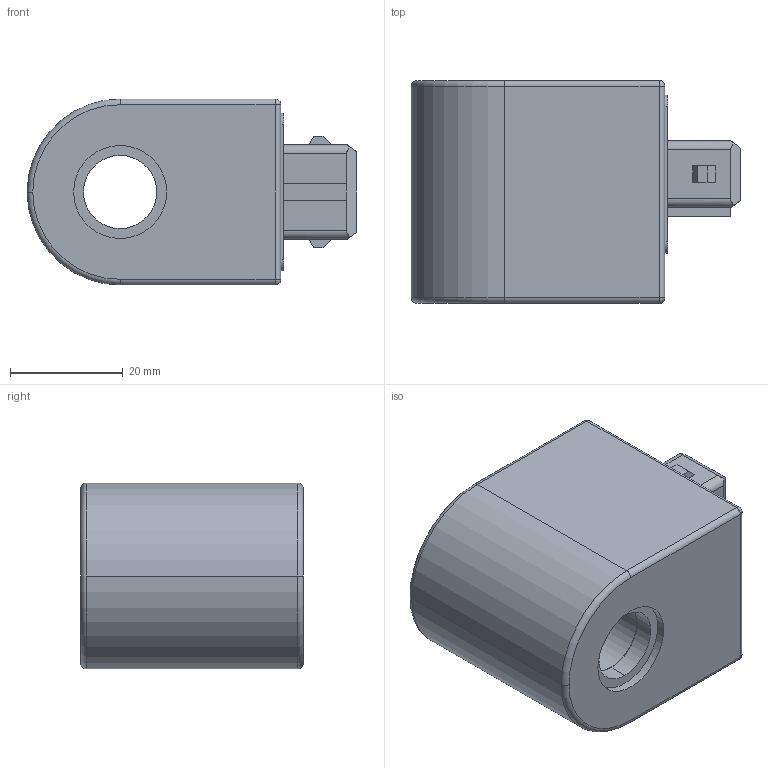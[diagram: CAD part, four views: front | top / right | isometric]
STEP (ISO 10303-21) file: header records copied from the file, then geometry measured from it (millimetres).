
FILE_DESCRIPTION (( 'STEP AP214' ), '1' );
FILE_NAME ('KJE33_13x39.STEP', '2016-09-14T07:25:16', ( '' ), ( '' ), 'SwSTEP 2.0', 'SolidWorks 2014', '' );
FILE_SCHEMA (( 'AUTOMOTIVE_DESIGN' ));
Length unit declared in the file: millimetre
Products named in the file (2): KJE33_13x39
Bounding box: 58.5 x 39.5 x 33 mm (x, y, z)
Volume: 50400.3 mm3; surface area: 11102.2 mm2
Topology: 1 solids, 1 shells, 114 faces, 270 edges, 167 vertices
Faces by surface type: plane 75, cylinder 32, sphere 4, torus 3
Entity records: 3259 total; most frequent: CARTESIAN_POINT 573, DIRECTION 554, ORIENTED_EDGE 532, EDGE_CURVE 266, LINE 194, VECTOR 194, AXIS2_PLACEMENT_3D 180, VERTEX_POINT 167
